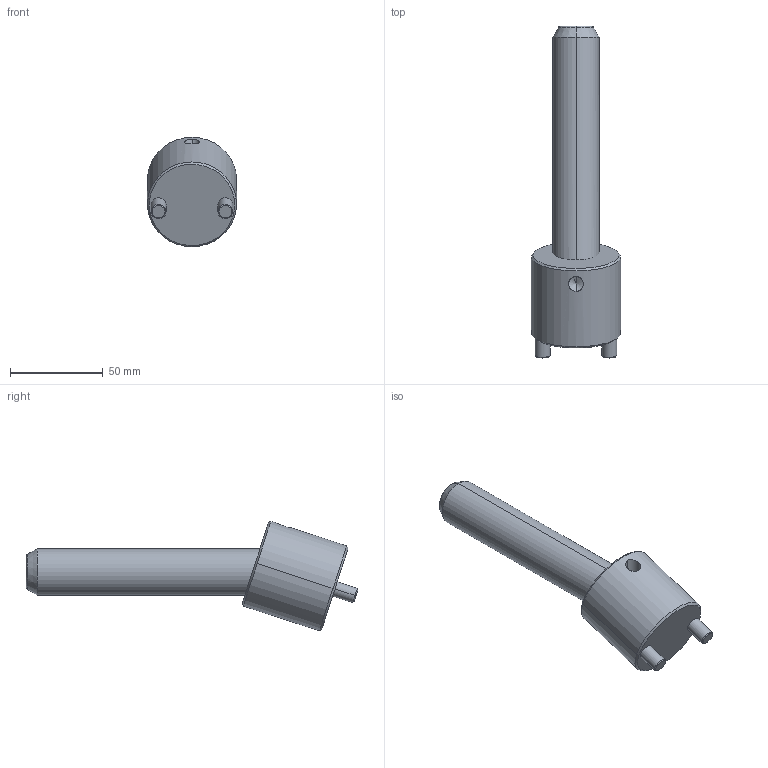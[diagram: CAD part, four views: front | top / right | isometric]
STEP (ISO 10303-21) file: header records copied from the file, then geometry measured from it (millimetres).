
FILE_DESCRIPTION(('CATIA V5 STEP Exchange'),'2;1');
FILE_NAME('C:\Users\Raffaele\Desktop\3D BOLEX\3D FILES CF BOLEX\19-INCLINED ASSEMBLY REF_CI\CI1825125.stp','2019-06-24T07:45:40+00:00',('none'),('none'),'CATIA Version 5 Release 20 GA (IN-10)','CATIA V5 STEP AP203','none');
FILE_SCHEMA(('CONFIG_CONTROL_DESIGN'));
Length unit declared in the file: millimetre
Products named in the file (1): CI1825125
Assembly tree (2 placements, depth 2):
  CI1825125
    #58
    #602
Bounding box: 48 x 178.84 x 58.94 mm (x, y, z)
Volume: 140504.7 mm3; surface area: 27363.4 mm2
Topology: 2 solids, 2 shells, 39 faces, 82 edges, 47 vertices
Faces by surface type: cone 14, cylinder 14, plane 7, torus 4
Entity records: 1527 total; most frequent: CARTESIAN_POINT 668, ORIENTED_EDGE 160, DIRECTION 145, EDGE_CURVE 80, AXIS2_PLACEMENT_3D 72, VERTEX_POINT 47, EDGE_LOOP 43, ADVANCED_FACE 39
